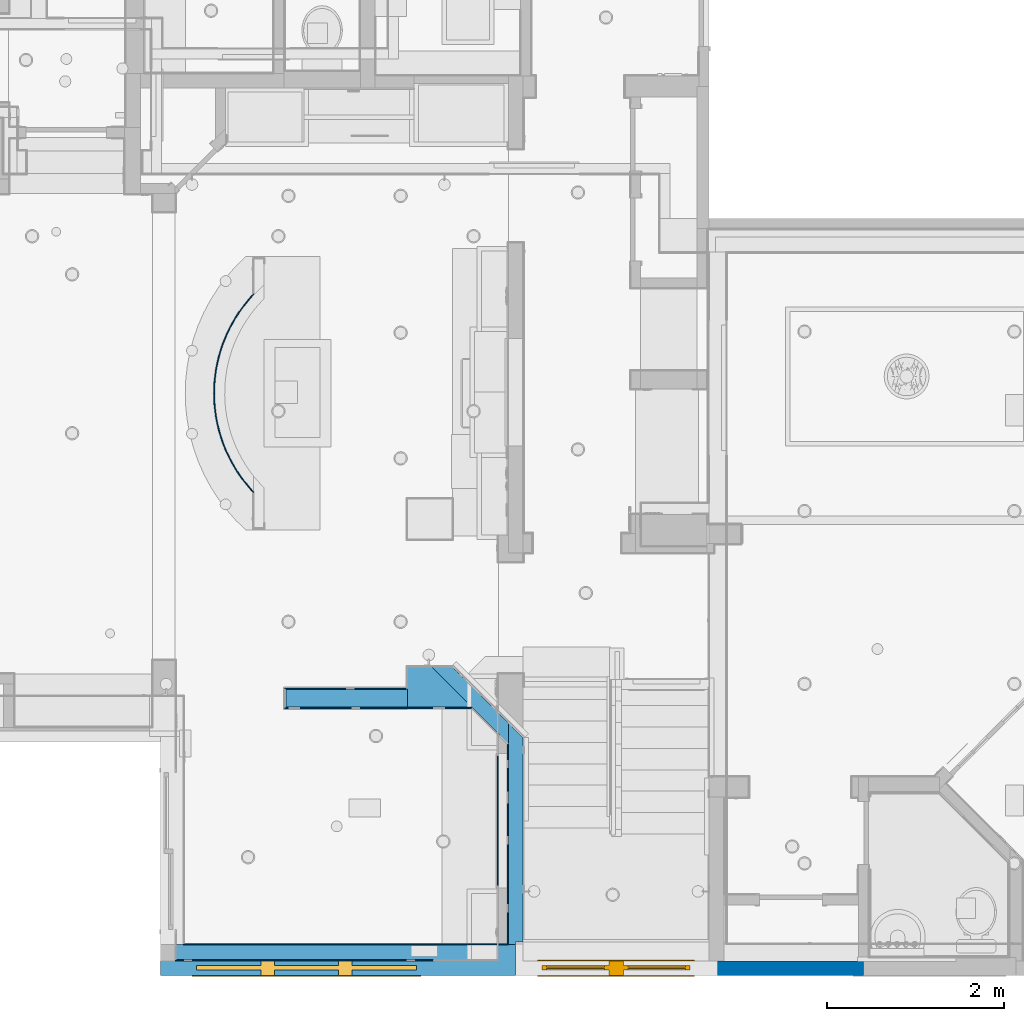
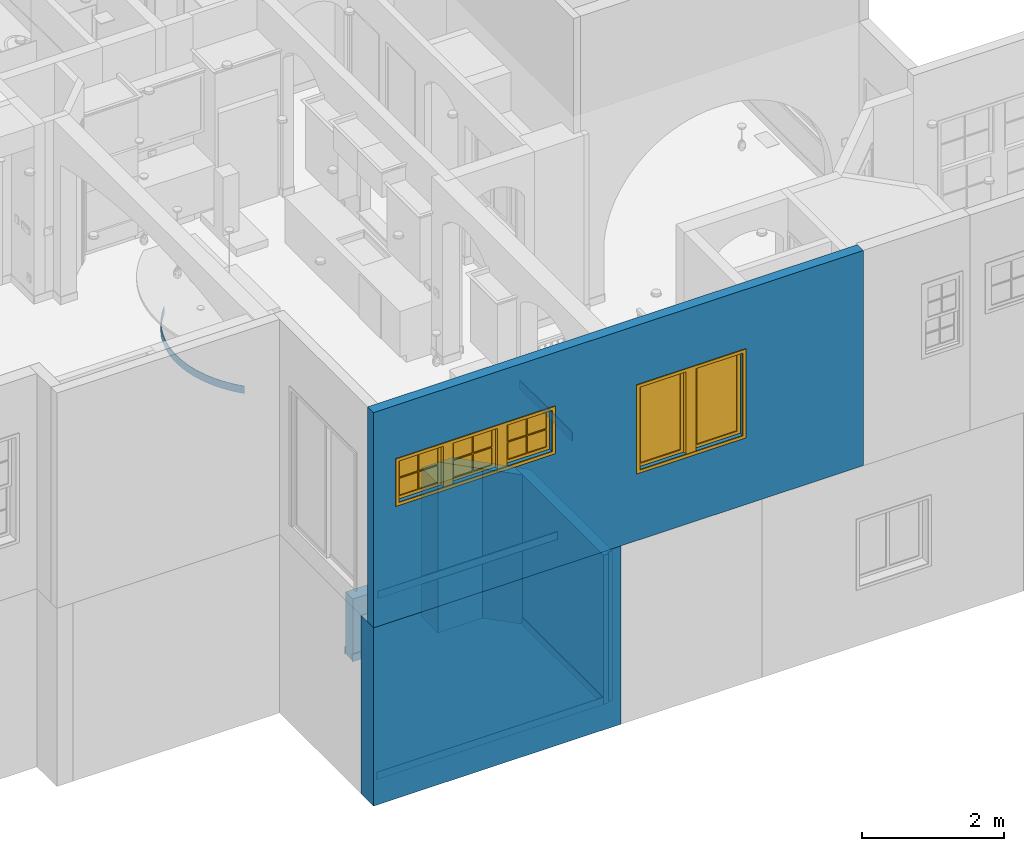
# One storey, part 4 of 81: 13 walls, 2 windows, 2 openings.
"""IFC2X3 building model written with IfcOpenShell, lengths in feet."""

from ifc_helpers import new_model, entity, si_unit, converted_unit, derived_unit, direction, frame, frame_2d, origin, origin_2d_with_axis, place, context, subcontext, project, spatial, polyline, circle_curve, parameter, trimmed, segment, composite_curve, rectangle, outline, extrude, source, transform, mapped, material, material_list, layer, layer_set, layer_usage, type_object, type_shapes, element, fill, save


model = new_model("IFC2X3")

# Units and contexts
model_context = context("Model", 3, precision=0.0001, world=origin(), true_north=direction((6.12303176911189e-17, 1.0)))
body_context = subcontext(model_context, "Body", "Model", "MODEL_VIEW")
ifc_project = project(units=[converted_unit("LENGTHUNIT", "FOOT", entity("IfcRatioMeasure", 0.3048), si_unit("LENGTHUNIT", "METRE"), dimensions=[1, 0, 0, 0, 0, 0, 0]), converted_unit("AREAUNIT", "SQUARE FOOT", entity("IfcRatioMeasure", 0.09290304), si_unit("AREAUNIT", "SQUARE_METRE"), dimensions=[2, 0, 0, 0, 0, 0, 0]), converted_unit("VOLUMEUNIT", "CUBIC FOOT", entity("IfcRatioMeasure", 0.028316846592), si_unit("VOLUMEUNIT", "CUBIC_METRE"), dimensions=[3, 0, 0, 0, 0, 0, 0]), converted_unit("PLANEANGLEUNIT", "DEGREE", entity("IfcRatioMeasure", 0.0174532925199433), si_unit("PLANEANGLEUNIT", "RADIAN"), dimensions=[0, 0, 0, 0, 0, 0, 0]), si_unit("MASSUNIT", "GRAM", prefix="KILO"), derived_unit("MASSDENSITYUNIT", [(si_unit("MASSUNIT", "GRAM", prefix="KILO"), 1), (si_unit("LENGTHUNIT", "METRE"), -3)]), derived_unit("MOMENTOFINERTIAUNIT", [(si_unit("LENGTHUNIT", "METRE"), 4)]), si_unit("TIMEUNIT", "SECOND"), si_unit("FREQUENCYUNIT", "HERTZ"), si_unit("THERMODYNAMICTEMPERATUREUNIT", "DEGREE_CELSIUS"), derived_unit("THERMALTRANSMITTANCEUNIT", [(si_unit("MASSUNIT", "GRAM", prefix="KILO"), 1), (si_unit("THERMODYNAMICTEMPERATUREUNIT", "KELVIN"), -1), (si_unit("TIMEUNIT", "SECOND"), -3)]), derived_unit("VOLUMETRICFLOWRATEUNIT", [(si_unit("LENGTHUNIT", "METRE"), 3), (si_unit("TIMEUNIT", "SECOND"), -1)]), si_unit("ELECTRICCURRENTUNIT", "AMPERE"), si_unit("ELECTRICVOLTAGEUNIT", "VOLT"), si_unit("POWERUNIT", "WATT"), si_unit("FORCEUNIT", "NEWTON"), si_unit("ILLUMINANCEUNIT", "LUX"), si_unit("LUMINOUSFLUXUNIT", "LUMEN"), si_unit("LUMINOUSINTENSITYUNIT", "CANDELA"), derived_unit("USERDEFINED", [(si_unit("MASSUNIT", "GRAM", prefix="KILO"), -1), (si_unit("LENGTHUNIT", "METRE"), -2), (si_unit("TIMEUNIT", "SECOND"), 3), (si_unit("LUMINOUSFLUXUNIT", "LUMEN"), 1)]), derived_unit("LINEARVELOCITYUNIT", [(si_unit("LENGTHUNIT", "METRE"), 1), (si_unit("TIMEUNIT", "SECOND"), -1)]), si_unit("PRESSUREUNIT", "PASCAL"), derived_unit("USERDEFINED", [(si_unit("LENGTHUNIT", "METRE"), -2), (si_unit("MASSUNIT", "GRAM", prefix="KILO"), 1), (si_unit("TIMEUNIT", "SECOND"), -2)]), derived_unit("LINEARFORCEUNIT", [(si_unit("MASSUNIT", "GRAM", prefix="KILO"), 1), (si_unit("LENGTHUNIT", "METRE"), 1), (si_unit("TIMEUNIT", "SECOND"), -2), (si_unit("LENGTHUNIT", "METRE"), -1)]), derived_unit("PLANARFORCEUNIT", [(si_unit("MASSUNIT", "GRAM", prefix="KILO"), 1), (si_unit("LENGTHUNIT", "METRE"), 1), (si_unit("TIMEUNIT", "SECOND"), -2), (si_unit("LENGTHUNIT", "METRE"), -2)])], contexts=[model_context])

# Site, building, storey
site_placement = place(None, origin())
site = spatial("IfcSite", under=ifc_project, at=site_placement, Name="Default", CompositionType="ELEMENT")
building_placement = place(site_placement, origin())
building = spatial("IfcBuilding", under=site, at=building_placement, CompositionType="ELEMENT")
storey_placement = place(building_placement, origin())
storey = spatial("IfcBuildingStorey", under=building, at=storey_placement, Name="First floor", CompositionType="ELEMENT", Elevation=0.0)

# Wall, openings, windows
ifc_material_1 = material(Name="Default New Material")
ifc_layer_1 = layer(ifc_material_1, 0.541666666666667)
ifc_layer_set_1 = layer_set([ifc_layer_1], Name="Basic Wall:Wall_6.5\"")
ifc_layer_usage_1 = layer_usage(ifc_layer_set_1, "AXIS2", "NEGATIVE", 0.270833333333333)
wall_type_1 = type_object("IfcWallType", Name="Basic Wall:Wall_6.5\"", PredefinedType="STANDARD", material=ifc_layer_set_1)
wall_1_placement = place(storey_placement, frame((26.1041666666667, 0.270833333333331, 9.54166666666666), z_axis=(0.0, 0.0, 1.0), x_axis=(-1.0, 0.0, 0.0)))
wall_1 = element("IfcWallStandardCase", 1, at=wall_1_placement, inside=storey, type_object=wall_type_1, material=ifc_layer_usage_1, Name="Basic Wall:Wall_6.5\"", ObjectType="Basic Wall:Wall_6.5\"", context=body_context, shape_type="SweptSolid", body=[
    extrude(rectangle(XDim=26.1041666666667, YDim=0.541666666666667, at=frame_2d((13.0520833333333, 0.0), x_axis=(-1.0, 0.0))), origin(), (0.0, 0.0, 1.0), 12.125),
])
opening_1_placement = place(wall_1_placement, frame((11.9375, 0.270833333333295, 3.95833333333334)))
opening_1 = element("IfcOpeningElement", 2, at=opening_1_placement, cuts=wall_1, Name="Window_9:5'-6\" X 4'-8\":1", ObjectType="Opening", context=body_context, shape_type="SweptSolid", body=[
    extrude(rectangle(XDim=4.66666666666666, YDim=5.5, at=frame_2d((2.33333333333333, 2.75), x_axis=(-1.0, 0.0))), frame((0.0, 0.0, 0.0), z_axis=(0.0, -1.0, 0.0), x_axis=(0.0, 0.0, 1.0)), (0.0, 0.0, 1.0), 0.541666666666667),
])
opening_2_placement = place(wall_1_placement, frame((24.7708333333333, 0.270833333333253, 6.625)))
opening_2 = element("IfcOpeningElement", 3, at=opening_2_placement, cuts=wall_1, Name="Window_10:8'-2\" X 2'-4\":1", ObjectType="Opening", context=body_context, shape_type="SweptSolid", body=[
    extrude(rectangle(XDim=2.33333333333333, YDim=8.16666666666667, at=frame_2d((1.16666666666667, 4.08333333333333), x_axis=(-1.0, 0.0))), frame((0.0, 0.0, 0.0), z_axis=(0.0, -1.0, 0.0), x_axis=(0.0, 0.0, 1.0)), (0.0, 0.0, 1.0), 0.541666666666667),
])
ifc_material_2 = material(Name="Glass")
ifc_material_list_1 = material_list([ifc_material_1, ifc_material_2])
ifc_material_list_2 = material_list([ifc_material_1, ifc_material_1, ifc_material_2])
window_style_1 = type_object("IfcWindowStyle", Name="Window_9:5'-6\" X 4'-8\"", ConstructionType="NOTDEFINED", OperationType="NOTDEFINED", ParameterTakesPrecedence=False, Sizeable=False, material=ifc_material_list_2)
shared_shape_1 = source(origin(), body_context, "Body", "SweptSolid", [
    extrude(rectangle(XDim=0.541666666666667, YDim=0.541666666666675, at=origin_2d_with_axis()), frame((2.74999999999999, 0.270833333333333, 0.0), z_axis=(0.0, 0.0, 1.0), x_axis=(0.0, -1.0, 0.0)), (0.0, 0.0, 1.0), 4.66666666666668),
    extrude(rectangle(XDim=0.0416666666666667, YDim=2.14583333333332, at=origin_2d_with_axis()), frame((1.23958333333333, 0.291666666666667, 0.166666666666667), z_axis=(0.0, 0.0, 1.0), x_axis=(0.0, 1.0, 0.0)), (0.0, 0.0, 1.0), 4.33333333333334),
    extrude(rectangle(XDim=0.0416666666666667, YDim=2.14583333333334, at=origin_2d_with_axis()), frame((4.26041666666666, 0.291666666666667, 0.166666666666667), z_axis=(0.0, 0.0, 1.0), x_axis=(0.0, 1.0, 0.0)), (0.0, 0.0, 1.0), 4.33333333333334),
    extrude(outline(polyline([(-1.23958333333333, -2.33333333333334), (1.23958333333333, -2.33333333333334), (1.23958333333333, 2.33333333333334), (-1.23958333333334, 2.33333333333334), (-1.23958333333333, -2.33333333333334)]), holes=[polyline([(-1.07291666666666, -2.16666666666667), (-1.07291666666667, 2.16666666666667), (1.07291666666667, 2.16666666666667), (1.07291666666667, -2.16666666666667), (-1.07291666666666, -2.16666666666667)])]), frame((4.26041666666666, 0.208333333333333, 2.33333333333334), z_axis=(0.0, 1.0, 0.0), x_axis=(1.0, 0.0, 0.0)), (0.0, 0.0, 1.0), 0.166666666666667),
    extrude(outline(polyline([(-2.33333333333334, -1.23958333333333), (2.33333333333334, -1.23958333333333), (2.33333333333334, 1.23958333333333), (-2.33333333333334, 1.23958333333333), (-2.33333333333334, -1.23958333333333)]), holes=[polyline([(-2.16666666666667, -1.07291666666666), (-2.16666666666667, 1.07291666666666), (2.16666666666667, 1.07291666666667), (2.16666666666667, -1.07291666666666), (-2.16666666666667, -1.07291666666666)])]), frame((1.23958333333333, 0.208333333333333, 2.33333333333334), z_axis=(0.0, 1.0, 0.0), x_axis=(0.0, 0.0, 1.0)), (0.0, 0.0, 1.0), 0.166666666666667),
    extrude(outline(polyline([(-2.91666666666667, -2.5), (2.91666666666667, -2.5), (2.91666666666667, 2.5), (-2.91666666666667, 2.5), (-2.91666666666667, -2.5)]), holes=[polyline([(-2.75, -2.33333333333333), (-2.75, 2.33333333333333), (2.75, 2.33333333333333), (2.75, -2.33333333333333), (-2.75, -2.33333333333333)])]), frame((2.75, 0.541666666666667, 2.33333333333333), z_axis=(0.0, 1.0, 0.0), x_axis=(1.0, 0.0, 0.0)), (0.0, 0.0, 1.0), 0.0416666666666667),
    extrude(outline(polyline([(-2.91666666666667, -2.5), (2.91666666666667, -2.5), (2.91666666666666, 2.5), (-2.91666666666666, 2.5), (-2.91666666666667, -2.5)]), holes=[polyline([(2.75, 2.33333333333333), (2.75, -2.33333333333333), (-2.75, -2.33333333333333), (-2.75, 2.33333333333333), (2.75, 2.33333333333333)])]), frame((2.75, -0.0416666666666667, 2.33333333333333), z_axis=(0.0, 1.0, 0.0), x_axis=(1.0, 0.0, 0.0)), (0.0, 0.0, 1.0), 0.0416666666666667),
])
type_shapes(window_style_1, [shared_shape_1])
window_1_placement = place(opening_1_placement, frame((0.0, 0.0, 0.0), z_axis=(0.0, 0.0, 1.0), x_axis=(-1.0, 0.0, 0.0)))
window_1 = element("IfcWindow", 4, at=window_1_placement, inside=storey, type_object=window_style_1, material=ifc_material_list_1, Name="Window_9:5'-6\" X 4'-8\"", ObjectType="Window_9:5'-6\" X 4'-8\"", OverallHeight=4.66666666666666, OverallWidth=5.5, context=body_context, shape_type="MappedRepresentation", body=[
    mapped(shared_shape_1, transform((0.0, 0.0, 0.0), scale=1.0)),
])
fill(opening_1, window_1)
ifc_material_list_3 = material_list([ifc_material_1, ifc_material_2])
ifc_material_list_4 = material_list([ifc_material_2, ifc_material_1, ifc_material_1])
window_style_2 = type_object("IfcWindowStyle", Name="Window_10:8'-2\" X 2'-4\"", ConstructionType="NOTDEFINED", OperationType="NOTDEFINED", ParameterTakesPrecedence=False, Sizeable=False, material=ifc_material_list_4)
shared_shape_2 = source(origin(), body_context, "Body", "SweptSolid", [
    extrude(rectangle(XDim=0.541666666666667, YDim=0.500000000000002, at=origin_2d_with_axis()), frame((2.63888888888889, 0.270833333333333, 0.0), z_axis=(0.0, 0.0, 1.0), x_axis=(0.0, -1.0, 0.0)), (0.0, 0.0, 1.0), 2.33333333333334),
    extrude(rectangle(XDim=0.541666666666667, YDim=0.500000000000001, at=origin_2d_with_axis()), frame((5.52777777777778, 0.270833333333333, 0.0), z_axis=(0.0, 0.0, 1.0), x_axis=(0.0, -1.0, 0.0)), (0.0, 0.0, 1.0), 2.33333333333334),
    extrude(rectangle(XDim=0.0416666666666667, YDim=1.00694444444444, at=origin_2d_with_axis()), frame((1.71875, 0.291666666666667, 1.18750000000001), z_axis=(0.0, 0.0, 1.0), x_axis=(0.0, 1.0, 0.0)), (0.0, 0.0, 1.0), 0.97916666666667),
    extrude(rectangle(XDim=0.0416666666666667, YDim=1.00694444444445, at=frame_2d((0.0, -2.22044604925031e-16), x_axis=(1.0, 0.0))), frame((7.49652777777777, 0.291666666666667, 0.166666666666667), z_axis=(0.0, 0.0, 1.0), x_axis=(0.0, 1.0, 0.0)), (0.0, 0.0, 1.0), 0.979166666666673),
    extrude(rectangle(XDim=0.0416666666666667, YDim=1.00694444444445, at=origin_2d_with_axis()), frame((4.60763888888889, 0.291666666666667, 0.166666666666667), z_axis=(0.0, 0.0, 1.0), x_axis=(0.0, 1.0, 0.0)), (0.0, 0.0, 1.0), 0.979166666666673),
    extrude(rectangle(XDim=0.0416666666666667, YDim=1.00694444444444, at=origin_2d_with_axis()), frame((1.71875, 0.291666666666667, 0.166666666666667), z_axis=(0.0, 0.0, 1.0), x_axis=(0.0, 1.0, 0.0)), (0.0, 0.0, 1.0), 0.979166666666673),
    extrude(rectangle(XDim=0.0416666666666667, YDim=1.00694444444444, at=frame_2d((0.0, -2.22044604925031e-16), x_axis=(1.0, 0.0))), frame((6.44791666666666, 0.291666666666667, 0.166666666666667), z_axis=(0.0, 0.0, 1.0), x_axis=(0.0, 1.0, 0.0)), (0.0, 0.0, 1.0), 0.979166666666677),
    extrude(rectangle(XDim=0.0416666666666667, YDim=1.00694444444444, at=origin_2d_with_axis()), frame((3.55902777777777, 0.291666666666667, 0.166666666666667), z_axis=(0.0, 0.0, 1.0), x_axis=(0.0, 1.0, 0.0)), (0.0, 0.0, 1.0), 0.979166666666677),
    extrude(rectangle(XDim=0.0416666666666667, YDim=1.00694444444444, at=origin_2d_with_axis()), frame((0.670138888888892, 0.291666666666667, 0.166666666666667), z_axis=(0.0, 0.0, 1.0), x_axis=(0.0, 1.0, 0.0)), (0.0, 0.0, 1.0), 0.979166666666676),
    extrude(rectangle(XDim=0.0416666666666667, YDim=1.00694444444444, at=frame_2d((0.0, -2.22044604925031e-16), x_axis=(1.0, 0.0))), frame((7.49652777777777, 0.291666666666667, 1.18750000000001), z_axis=(0.0, 0.0, 1.0), x_axis=(0.0, 1.0, 0.0)), (0.0, 0.0, 1.0), 0.979166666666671),
    extrude(rectangle(XDim=0.0416666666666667, YDim=1.00694444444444, at=origin_2d_with_axis()), frame((0.670138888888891, 0.291666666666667, 1.18750000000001), z_axis=(0.0, 0.0, 1.0), x_axis=(0.0, 1.0, 0.0)), (0.0, 0.0, 1.0), 0.979166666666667),
    extrude(rectangle(XDim=0.0416666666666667, YDim=1.00694444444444, at=frame_2d((0.0, 1.11022302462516e-16), x_axis=(1.0, 0.0))), frame((6.44791666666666, 0.291666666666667, 1.18750000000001), z_axis=(0.0, 0.0, 1.0), x_axis=(0.0, 1.0, 0.0)), (0.0, 0.0, 1.0), 0.979166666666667),
    extrude(rectangle(XDim=0.0416666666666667, YDim=1.00694444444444, at=origin_2d_with_axis()), frame((3.55902777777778, 0.291666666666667, 1.18750000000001), z_axis=(0.0, 0.0, 1.0), x_axis=(0.0, 1.0, 0.0)), (0.0, 0.0, 1.0), 0.979166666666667),
    extrude(rectangle(XDim=0.0416666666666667, YDim=1.00694444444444, at=origin_2d_with_axis()), frame((4.60763888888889, 0.291666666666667, 1.18750000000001), z_axis=(0.0, 0.0, 1.0), x_axis=(0.0, 1.0, 0.0)), (0.0, 0.0, 1.0), 0.979166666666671),
    extrude(outline(polyline([(-1.16666666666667, -1.19444444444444), (1.16666666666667, -1.19444444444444), (1.16666666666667, 1.19444444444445), (-1.16666666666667, 1.19444444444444), (-1.16666666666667, -1.19444444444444)]), holes=[polyline([(0.0208333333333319, -1.02777777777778), (0.0208333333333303, -0.0208333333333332), (1.0, -0.0208333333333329), (1.0, -1.02777777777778), (0.0208333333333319, -1.02777777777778)]), polyline([(0.02083333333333, 0.0208333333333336), (0.0208333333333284, 1.02777777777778), (1.0, 1.02777777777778), (1.0, 0.0208333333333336), (0.02083333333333, 0.0208333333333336)]), polyline([(-0.0208333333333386, 1.02777777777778), (-0.020833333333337, 0.0208333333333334), (-1.0, 0.0208333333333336), (-1.0, 1.02777777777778), (-0.0208333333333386, 1.02777777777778)]), polyline([(-1.0, -0.0208333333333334), (-0.0208333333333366, -0.0208333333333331), (-0.020833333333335, -1.02777777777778), (-1.0, -1.02777777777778), (-1.0, -0.0208333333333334)])]), frame((4.08333333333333, 0.208333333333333, 1.16666666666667), z_axis=(0.0, 1.0, 0.0), x_axis=(0.0, 0.0, -1.0)), (0.0, 0.0, 1.0), 0.166666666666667),
    extrude(outline(polyline([(-1.19444444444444, -1.16666666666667), (1.19444444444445, -1.16666666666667), (1.19444444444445, 1.16666666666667), (-1.19444444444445, 1.16666666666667), (-1.19444444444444, -1.16666666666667)]), holes=[polyline([(0.0208333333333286, 1.0), (1.02777777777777, 1.0), (1.02777777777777, 0.0208333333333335), (0.0208333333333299, 0.0208333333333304), (0.0208333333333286, 1.0)]), polyline([(-0.020833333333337, 0.0208333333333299), (-1.02777777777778, 0.0208333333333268), (-1.02777777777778, 1.0), (-0.0208333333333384, 1.0), (-0.020833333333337, 0.0208333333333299)]), polyline([(0.0208333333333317, -1.0), (0.0208333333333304, -0.0208333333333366), (1.02777777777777, -0.0208333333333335), (1.02777777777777, -1.0), (0.0208333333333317, -1.0)]), polyline([(-1.02777777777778, -0.0208333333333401), (-0.0208333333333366, -0.020833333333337), (-0.0208333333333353, -1.0), (-1.02777777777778, -1.0), (-1.02777777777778, -0.0208333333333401)])]), frame((6.97222222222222, 0.208333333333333, 1.16666666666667), z_axis=(0.0, 1.0, 0.0), x_axis=(1.0, 0.0, 0.0)), (0.0, 0.0, 1.0), 0.166666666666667),
    extrude(outline(polyline([(-1.16666666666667, -1.19444444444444), (1.16666666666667, -1.19444444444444), (1.16666666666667, 1.19444444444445), (-1.16666666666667, 1.19444444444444), (-1.16666666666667, -1.19444444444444)]), holes=[polyline([(-0.0208333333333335, 1.02777777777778), (-0.0208333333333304, 0.0208333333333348), (-1.0, 0.020833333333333), (-1.0, 1.02777777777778), (-0.0208333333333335, 1.02777777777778)]), polyline([(-0.0208333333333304, -0.0208333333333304), (-0.0208333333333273, -1.02777777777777), (-1.0, -1.02777777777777), (-1.0, -0.0208333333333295), (-0.0208333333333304, -0.0208333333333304)]), polyline([(0.0208333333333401, -1.02777777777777), (0.020833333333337, -0.0208333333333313), (1.0, -0.0208333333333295), (1.0, -1.02777777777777), (0.0208333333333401, -1.02777777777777)]), polyline([(1.0, 0.0208333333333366), (0.0208333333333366, 0.0208333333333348), (0.0208333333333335, 1.02777777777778), (1.0, 1.02777777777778), (1.0, 0.0208333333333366)])]), frame((1.19444444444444, 0.208333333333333, 1.16666666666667), z_axis=(0.0, 1.0, 0.0), x_axis=(0.0, 0.0, 1.0)), (0.0, 0.0, 1.0), 0.166666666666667),
    extrude(outline(polyline([(-4.25, -1.33333333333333), (4.25, -1.33333333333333), (4.25, 1.33333333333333), (-4.25, 1.33333333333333), (-4.25, -1.33333333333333)]), holes=[polyline([(-4.08333333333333, -1.16666666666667), (-4.08333333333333, 1.16666666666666), (4.08333333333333, 1.16666666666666), (4.08333333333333, -1.16666666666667), (-4.08333333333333, -1.16666666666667)])]), frame((4.08333333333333, 0.541666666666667, 1.16666666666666), z_axis=(0.0, 1.0, 0.0), x_axis=(1.0, 0.0, 0.0)), (0.0, 0.0, 1.0), 0.0416666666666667),
    extrude(outline(polyline([(-4.25, -1.33333333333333), (4.25, -1.33333333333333), (4.25, 1.33333333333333), (-4.25, 1.33333333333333), (-4.25, -1.33333333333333)]), holes=[polyline([(4.08333333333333, 1.16666666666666), (4.08333333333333, -1.16666666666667), (-4.08333333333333, -1.16666666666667), (-4.08333333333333, 1.16666666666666), (4.08333333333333, 1.16666666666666)])]), frame((4.08333333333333, -0.0416666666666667, 1.16666666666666), z_axis=(0.0, 1.0, 0.0), x_axis=(1.0, 0.0, 0.0)), (0.0, 0.0, 1.0), 0.0416666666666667),
])
type_shapes(window_style_2, [shared_shape_2])
window_2_placement = place(opening_2_placement, frame((0.0, 0.0, 0.0), z_axis=(0.0, 0.0, 1.0), x_axis=(-1.0, 0.0, 0.0)))
window_2 = element("IfcWindow", 5, at=window_2_placement, inside=storey, type_object=window_style_2, material=ifc_material_list_3, Name="Window_10:8'-2\" X 2'-4\"", ObjectType="Window_10:8'-2\" X 2'-4\"", OverallHeight=2.33333333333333, OverallWidth=8.16666666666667, context=body_context, shape_type="MappedRepresentation", body=[
    mapped(shared_shape_2, transform((0.0, 0.0, 0.0), scale=1.0)),
])
fill(opening_2, window_2)

# Walls
ifc_layer_usage_2 = layer_usage(ifc_layer_set_1, "AXIS2", "NEGATIVE", 0.270833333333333)
wall_2_placement = place(storey_placement, frame((13.1874989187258, 1.14583333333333, 0.0), z_axis=(0.0, 0.0, 1.0), x_axis=(0.0, 1.0, 0.0)))
element("IfcWallStandardCase", 6, at=wall_2_placement, inside=storey, type_object=wall_type_1, material=ifc_layer_usage_2, Name="Basic Wall:Wall_6.5\"", ObjectType="Basic Wall:Wall_6.5\"", context=body_context, shape_type="SweptSolid", body=[
    extrude(outline(polyline([(7.68750108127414, -0.270833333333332), (8.2291677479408, 0.270833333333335), (7.46313540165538, 0.270833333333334), (0.0, 0.270833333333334), (0.0, 0.0), (0.104166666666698, 0.0), (0.104166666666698, -0.270833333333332), (7.68750108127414, -0.270833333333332)])), origin(), (0.0, 0.0, 1.0), 8.41666666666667),
])
ifc_layer_usage_3 = layer_usage(ifc_layer_set_1, "AXIS2", "POSITIVE", -0.270833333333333)
wall_3_placement = place(storey_placement, frame((13.1081736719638, 8.80047682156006, 0.0), z_axis=(0.0, 0.0, 1.0), x_axis=(-0.707106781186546, 0.707106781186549, 0.0)))
element("IfcWallStandardCase", 7, at=wall_3_placement, inside=storey, type_object=wall_type_1, material=ifc_layer_usage_3, Name="Basic Wall:Wall_6.5\"", ObjectType="Basic Wall:Wall_6.5\"", context=body_context, shape_type="SweptSolid", body=[
    extrude(outline(polyline([(3.48791550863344, -0.270833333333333), (4.02960491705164, 0.270833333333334), (1.90824004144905, 0.270833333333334), (0.0, 0.270833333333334), (0.541666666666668, -0.270833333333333), (3.48791550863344, -0.270833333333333)])), origin(), (0.0, 0.0, 1.0), 8.41666666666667),
])
ifc_layer_2 = layer(ifc_material_1, 0.666666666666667)
ifc_layer_set_2 = layer_set([ifc_layer_2], Name="Basic Wall:Wall_8\"")
ifc_layer_usage_4 = layer_usage(ifc_layer_set_2, "AXIS2", "POSITIVE", -0.333333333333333)
wall_type_2 = type_object("IfcWallType", Name="Basic Wall:Wall_8\"", PredefinedType="STANDARD", material=ifc_layer_set_2)
wall_4_placement = place(storey_placement, frame((9.17140289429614, 10.2917244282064, 0.0), z_axis=(0.0, 0.0, 1.0), x_axis=(-1.0, 0.0, 0.0)))
element("IfcWallStandardCase", 8, at=wall_4_placement, inside=storey, type_object=wall_type_2, material=ifc_layer_usage_4, Name="Basic Wall:Wall_8\"", ObjectType="Basic Wall:Wall_8\"", context=body_context, shape_type="SweptSolid", body=[
    extrude(rectangle(XDim=4.52076857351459, YDim=0.666666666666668, at=frame_2d((2.2603842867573, 2.77555756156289e-17), x_axis=(-1.0, 0.0))), origin(), (0.0, 0.0, 1.0), 3.5),
])
ifc_layer_3 = layer(ifc_material_1, 1.14583333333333)
ifc_layer_set_3 = layer_set([ifc_layer_3], Name="Basic Wall:Wall_1' 1 3/4\"")
ifc_layer_usage_5 = layer_usage(ifc_layer_set_3, "AXIS2", "NEGATIVE", 0.572916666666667)
wall_type_3 = type_object("IfcWallType", Name="Basic Wall:Wall_1' 1 3/4\"", PredefinedType="STANDARD", material=ifc_layer_set_3)
wall_5_placement = place(storey_placement, frame((13.1874989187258, 0.572916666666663, -0.5), z_axis=(0.0, 0.0, 1.0), x_axis=(-1.0, 0.0, 0.0)))
element("IfcWallStandardCase", 9, at=wall_5_placement, inside=storey, type_object=wall_type_3, material=ifc_layer_usage_5, Name="Basic Wall:Wall_1' 1 3/4\"", ObjectType="Basic Wall:Wall_1' 1 3/4\"", context=body_context, shape_type="SweptSolid", body=[
    extrude(rectangle(XDim=13.1874411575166, YDim=1.14583333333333, at=frame_2d((6.59372057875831, 0.0), x_axis=(-1.0, 0.0))), origin(), (0.0, 0.0, 1.0), 10.0416666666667),
])
ifc_layer_4 = layer(ifc_material_1, 1.5)
ifc_layer_set_4 = layer_set([ifc_layer_4], Name="Basic Wall:Wall_1'6\"")
ifc_layer_usage_6 = layer_usage(ifc_layer_set_4, "AXIS2", "NEGATIVE", 0.75)
wall_type_4 = type_object("IfcWallType", Name="Basic Wall:Wall_1'6\"", PredefinedType="STANDARD", material=ifc_layer_set_4)
wall_6_placement = place(storey_placement, frame((11.5673518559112, 10.7082982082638, 0.0), z_axis=(0.0, 0.0, 1.0), x_axis=(-1.0, 2.09919453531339e-05, 0.0)))
element("IfcWallStandardCase", 10, at=wall_6_placement, inside=storey, type_object=wall_type_4, material=ifc_layer_usage_6, Name="Basic Wall:Wall_1'6\"", ObjectType="Basic Wall:Wall_1'6\"", context=body_context, shape_type="SweptSolid", body=[
    extrude(outline(polyline([(2.39594896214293, -0.749999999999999), (2.39594896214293, 0.750000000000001), (0.0, 0.750000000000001), (1.50006297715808, -0.749999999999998), (2.39594896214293, -0.749999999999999)])), origin(), (0.0, 0.0, 1.0), 8.41666666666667),
])
ifc_layer_5 = layer(ifc_material_1, 0.0416666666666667)
ifc_layer_set_5 = layer_set([ifc_layer_5], Name="Basic Wall:Wall Border_T1")
ifc_layer_usage_7 = layer_usage(ifc_layer_set_5, "AXIS2", "NEGATIVE", 0.0208333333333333)
wall_type_5 = type_object("IfcWallType", Name="Basic Wall:Wall Border_T1", PredefinedType="STANDARD", material=ifc_layer_set_5)
wall_7_placement = place(storey_placement, frame((9.12980098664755, 10.645833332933, 0.0), z_axis=(0.0, 0.0, 1.0), x_axis=(-1.0, 0.0, 0.0)))
element("IfcWallStandardCase", 11, at=wall_7_placement, inside=storey, type_object=wall_type_5, material=ifc_layer_usage_7, Name="Basic Wall:Wall Border_T1", ObjectType="Basic Wall:Wall Border_T1", context=body_context, shape_type="SweptSolid", body=[
    extrude(rectangle(XDim=4.52083333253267, YDim=0.0416666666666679, at=frame_2d((2.26041666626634, 3.29597460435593e-17), x_axis=(-1.0, 0.0))), origin(), (0.0, 0.0, 1.0), 0.416666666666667),
])
ifc_layer_usage_8 = layer_usage(ifc_layer_set_5, "AXIS2", "NEGATIVE", 0.0208333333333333)
wall_8_placement = place(storey_placement, frame((4.60896765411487, 9.93750000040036, 0.0)))
element("IfcWallStandardCase", 12, at=wall_8_placement, inside=storey, type_object=wall_type_5, material=ifc_layer_usage_8, Name="Basic Wall:Wall Border_T1", ObjectType="Basic Wall:Wall Border_T1", context=body_context, shape_type="SweptSolid", body=[
    extrude(rectangle(XDim=6.94107443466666, YDim=0.0416666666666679, at=frame_2d((3.47053721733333, 0.0), x_axis=(-1.0, 0.0))), origin(), (0.0, 0.0, 1.0), 0.416666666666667),
])
ifc_layer_usage_9 = layer_usage(ifc_layer_set_5, "AXIS2", "NEGATIVE", 0.0208333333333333)
wall_9_placement = place(storey_placement, frame((12.8958333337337, 8.59170875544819, 0.0), z_axis=(0.0, 0.0, 1.0), x_axis=(0.0, -1.0, 0.0)))
element("IfcWallStandardCase", 13, at=wall_9_placement, inside=storey, type_object=wall_type_5, material=ifc_layer_usage_9, Name="Basic Wall:Wall Border_T1", ObjectType="Basic Wall:Wall Border_T1", context=body_context, shape_type="SweptSolid", body=[
    extrude(rectangle(XDim=7.40420875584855, YDim=0.0416666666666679, at=frame_2d((3.70210437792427, 0.0), x_axis=(-1.0, 0.0))), origin(), (0.0, 0.0, 1.0), 0.416666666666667),
])
ifc_layer_usage_10 = layer_usage(ifc_layer_set_5, "AXIS2", "NEGATIVE", 0.0208333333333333)
wall_10_placement = place(storey_placement, frame((12.916666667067, 1.1666666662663, 0.0), z_axis=(0.0, 0.0, 1.0), x_axis=(-1.0, 0.0, 0.0)))
element("IfcWallStandardCase", 14, at=wall_10_placement, inside=storey, type_object=wall_type_5, material=ifc_layer_usage_10, Name="Basic Wall:Wall Border_T1", ObjectType="Basic Wall:Wall Border_T1", context=body_context, shape_type="SweptSolid", body=[
    extrude(rectangle(XDim=12.0833333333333, YDim=0.0416666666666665, at=frame_2d((6.04166666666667, -8.50014503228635e-17), x_axis=(-1.0, 0.0))), origin(), (0.0, 0.0, 1.0), 0.416666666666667),
])
ifc_layer_usage_11 = layer_usage(ifc_layer_set_5, "AXIS2", "NEGATIVE", 0.0208333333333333)
wall_11_placement = place(storey_placement, frame((12.5208333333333, 8.16666666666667, 13.6666666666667), z_axis=(0.0, 0.0, 1.0), x_axis=(0.0, -1.0, 0.0)))
element("IfcWallStandardCase", 15, at=wall_11_placement, inside=storey, type_object=wall_type_5, material=ifc_layer_usage_11, Name="Basic Wall:Wall Border_T1", ObjectType="Basic Wall:Wall Border_T1", context=body_context, shape_type="SweptSolid", body=[
    extrude(rectangle(XDim=4.83333333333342, YDim=0.0416666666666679, at=frame_2d((2.41666666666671, 0.0), x_axis=(-1.0, 0.0))), origin(), (0.0, 0.0, 1.0), 0.500000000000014),
])
ifc_layer_usage_12 = layer_usage(ifc_layer_set_5, "AXIS2", "NEGATIVE", 0.0208333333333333)
wall_12_placement = place(storey_placement, frame((10.125, 0.562500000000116, 10.6666666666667), z_axis=(0.0, 0.0, 1.0), x_axis=(-1.0, 0.0, 0.0)))
element("IfcWallStandardCase", 16, at=wall_12_placement, inside=storey, type_object=wall_type_5, material=ifc_layer_usage_12, Name="Basic Wall:Wall Border_T1", ObjectType="Basic Wall:Wall Border_T1", context=body_context, shape_type="SweptSolid", body=[
    extrude(rectangle(XDim=9.58333333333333, YDim=0.0416666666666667, at=frame_2d((4.79166666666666, 2.77555756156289e-17), x_axis=(-1.0, 0.0))), origin(), (0.0, 0.0, 1.0), 0.416666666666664),
])
ifc_layer_usage_13 = layer_usage(ifc_layer_set_5, "AXIS2", "POSITIVE", -0.0208333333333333)
wall_13_placement = place(storey_placement, frame((3.47336842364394, 17.9268103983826, 10.6666666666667)))
element("IfcWallStandardCase", 17, at=wall_13_placement, inside=storey, type_object=wall_type_5, material=ifc_layer_usage_13, Name="Basic Wall:Wall Border_T1", ObjectType="Basic Wall:Wall Border_T1", context=body_context, shape_type="SweptSolid", body=[
    extrude(outline(composite_curve([segment(polyline([(-0.0150350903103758, -0.0144212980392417), (-0.0150350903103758, 0.0460296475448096)]), True, "CONTINUOUS"), segment(trimmed(circle_curve(frame_2d((3.85559014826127, 3.69818960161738), x_axis=(1.0, 0.0)), 5.32165501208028), [parameter(136.663429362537)], [parameter(223.336570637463)], True, "PARAMETER"), False, "CONTINUOUS"), segment(polyline([(-0.0150350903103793, 7.35034955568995), (-0.0150350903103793, 7.410800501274)]), True, "CONTINUOUS"), segment(polyline([(-0.0150350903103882, 7.41080050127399), (-0.0567764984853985, 7.36677769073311)]), True, "CONTINUOUS"), segment(polyline([(-0.0567764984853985, 7.36677769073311), (-0.349693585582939, 7.02697438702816)]), True, "CONTINUOUS"), segment(polyline([(-0.349693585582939, 7.02697438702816), (-0.613258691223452, 6.6637602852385)]), True, "CONTINUOUS"), segment(polyline([(-0.613258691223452, 6.6637602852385), (-0.845536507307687, 6.27978360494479)]), True, "CONTINUOUS"), segment(polyline([(-0.845536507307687, 6.27978360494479), (-1.04490078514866, 5.87773268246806)]), True, "CONTINUOUS"), segment(polyline([(-1.04490078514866, 5.87773268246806), (-1.20995574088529, 5.46042235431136)]), True, "CONTINUOUS"), segment(polyline([(-1.20995574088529, 5.46042235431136), (-1.33954579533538, 5.03077429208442)]), True, "CONTINUOUS"), segment(polyline([(-1.33954579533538, 5.03077429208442), (-1.4327636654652, 4.59179654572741)]), True, "CONTINUOUS"), segment(polyline([(-1.4327636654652, 4.59179654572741), (-1.48895671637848, 4.14656248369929)]), True, "CONTINUOUS"), segment(polyline([(-1.48895671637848, 4.14656248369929), (-1.50773153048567, 3.69818927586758)]), True, "CONTINUOUS"), segment(polyline([(-1.50773153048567, 3.69818927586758), (-1.48895666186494, 3.24981606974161)]), True, "CONTINUOUS"), segment(polyline([(-1.48895666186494, 3.24981606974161), (-1.43276355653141, 2.80458201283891)]), True, "CONTINUOUS"), segment(polyline([(-1.43276355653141, 2.80458201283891), (-1.33954563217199, 2.36560427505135)]), True, "CONTINUOUS"), segment(polyline([(-1.33954563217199, 2.36560427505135), (-1.20995552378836, 1.93595622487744)]), True, "CONTINUOUS"), segment(polyline([(-1.20995552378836, 1.93595622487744), (-1.04490051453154, 1.5186459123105)]), True, "CONTINUOUS"), segment(polyline([(-1.04490051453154, 1.5186459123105), (-0.845536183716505, 1.11659500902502)]), True, "CONTINUOUS"), segment(polyline([(-0.845536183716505, 1.11659500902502), (-0.613258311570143, 0.732618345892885)]), True, "CONTINUOUS"), segment(polyline([(-0.613258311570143, 0.732618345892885), (-0.349693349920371, 0.369404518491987)]), True, "CONTINUOUS"), segment(polyline([(-0.349693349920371, 0.369404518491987), (-0.0567775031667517, 0.0296028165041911)]), True, "CONTINUOUS"), segment(polyline([(-0.0567775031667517, 0.0296028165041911), (-0.0150350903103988, -0.0144212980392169)]), True, "CONTINUOUS")], self_intersect=False)), origin(), (0.0, 0.0, 1.0), 0.416666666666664),
])

save(model, "model.ifc")
